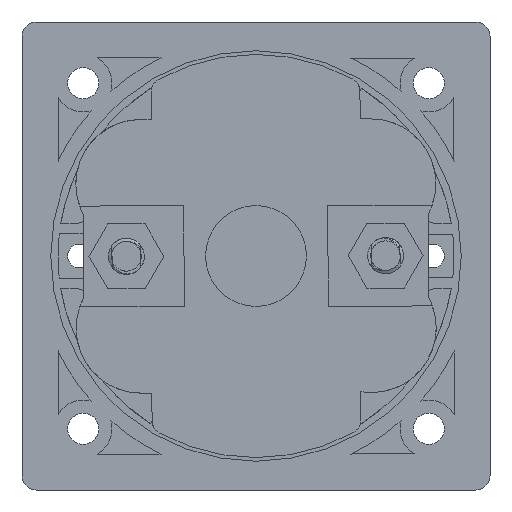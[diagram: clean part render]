
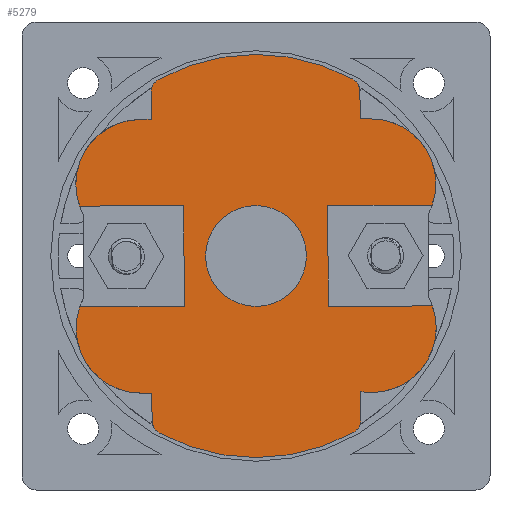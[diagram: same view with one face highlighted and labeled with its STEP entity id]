
A CAD part, front view. The second image highlights one B-rep face of the part: STEP entity #5279.
In plain terms, the highlighted planar face has unit normal (0, -1, 0).
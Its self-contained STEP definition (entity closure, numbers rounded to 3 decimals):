
#846=LINE('',#65444,#2837);
#851=LINE('',#65455,#2842);
#853=LINE('',#65459,#2844);
#857=LINE('',#65471,#2848);
#862=LINE('',#65482,#2853);
#864=LINE('',#65486,#2855);
#869=LINE('',#65521,#2860);
#901=LINE('',#65589,#2892);
#935=LINE('',#65673,#2926);
#937=LINE('',#65687,#2928);
#943=LINE('',#65706,#2934);
#974=LINE('',#65768,#2965);
#1008=LINE('',#65852,#2999);
#1011=LINE('',#65858,#3002);
#2837=VECTOR('',#30429,1.);
#2842=VECTOR('',#30436,1.);
#2844=VECTOR('',#30440,1.);
#2848=VECTOR('',#30452,1.);
#2853=VECTOR('',#30459,1.);
#2855=VECTOR('',#30463,1.);
#2860=VECTOR('',#30476,1.);
#2892=VECTOR('',#30516,1.);
#2926=VECTOR('',#30574,1.);
#2928=VECTOR('',#30578,1.);
#2934=VECTOR('',#30598,1.);
#2965=VECTOR('',#30631,1.);
#2999=VECTOR('',#30689,1.);
#3002=VECTOR('',#30694,1.);
#4707=FACE_BOUND('',#8998,.T.);
#4708=FACE_BOUND('',#8999,.T.);
#5279=ADVANCED_FACE('',(#4707,#4708),#6683,.F.);
#6683=PLANE('',#27790);
#8998=EDGE_LOOP('',(#12591,#12592,#12593,#12594,#12595,#12596,#12597,#12598,
#12599,#12600,#12601,#12602,#12603,#12604,#12605,#12606,#12607,#12608,#12609,
#12610,#12611,#12612,#12613,#12614,#12615));
#8999=EDGE_LOOP('',(#12616));
#10611=CIRCLE('',#27731,7.);
#10617=CIRCLE('',#27747,8.96);
#10620=CIRCLE('',#27752,2.);
#10622=CIRCLE('',#27755,28.);
#10625=CIRCLE('',#27759,2.);
#10626=CIRCLE('',#27763,9.);
#10628=CIRCLE('',#27766,9.);
#10632=CIRCLE('',#27773,2.);
#10634=CIRCLE('',#27776,28.);
#10637=CIRCLE('',#27780,2.);
#10638=CIRCLE('',#27784,9.);
#10640=CIRCLE('',#27787,9.);
#12591=ORIENTED_EDGE('',*,*,#23007,.F.);
#12592=ORIENTED_EDGE('',*,*,#23112,.T.);
#12593=ORIENTED_EDGE('',*,*,#23111,.T.);
#12594=ORIENTED_EDGE('',*,*,#23107,.T.);
#12595=ORIENTED_EDGE('',*,*,#23076,.T.);
#12596=ORIENTED_EDGE('',*,*,#23072,.T.);
#12597=ORIENTED_EDGE('',*,*,#23069,.T.);
#12598=ORIENTED_EDGE('',*,*,#23065,.T.);
#12599=ORIENTED_EDGE('',*,*,#23034,.T.);
#12600=ORIENTED_EDGE('',*,*,#23031,.T.);
#12601=ORIENTED_EDGE('',*,*,#23201,.T.);
#12602=ORIENTED_EDGE('',*,*,#23018,.F.);
#12603=ORIENTED_EDGE('',*,*,#23013,.F.);
#12604=ORIENTED_EDGE('',*,*,#23020,.F.);
#12605=ORIENTED_EDGE('',*,*,#23198,.T.);
#12606=ORIENTED_EDGE('',*,*,#23197,.T.);
#12607=ORIENTED_EDGE('',*,*,#23194,.T.);
#12608=ORIENTED_EDGE('',*,*,#23163,.T.);
#12609=ORIENTED_EDGE('',*,*,#23159,.T.);
#12610=ORIENTED_EDGE('',*,*,#23156,.T.);
#12611=ORIENTED_EDGE('',*,*,#23152,.T.);
#12612=ORIENTED_EDGE('',*,*,#23121,.T.);
#12613=ORIENTED_EDGE('',*,*,#23115,.T.);
#12614=ORIENTED_EDGE('',*,*,#23005,.F.);
#12615=ORIENTED_EDGE('',*,*,#23000,.F.);
#12616=ORIENTED_EDGE('',*,*,#22999,.F.);
#20133=VERTEX_POINT('',#65442);
#20134=VERTEX_POINT('',#65445);
#20135=VERTEX_POINT('',#65446);
#20139=VERTEX_POINT('',#65456);
#20140=VERTEX_POINT('',#65460);
#20144=VERTEX_POINT('',#65472);
#20145=VERTEX_POINT('',#65473);
#20149=VERTEX_POINT('',#65483);
#20150=VERTEX_POINT('',#65487);
#20154=VERTEX_POINT('',#65502);
#20159=VERTEX_POINT('',#65520);
#20160=VERTEX_POINT('',#65524);
#20162=VERTEX_POINT('',#65530);
#20192=VERTEX_POINT('',#65592);
#20195=VERTEX_POINT('',#65600);
#20197=VERTEX_POINT('',#65606);
#20200=VERTEX_POINT('',#65614);
#20230=VERTEX_POINT('',#65679);
#20234=VERTEX_POINT('',#65695);
#20237=VERTEX_POINT('',#65703);
#20239=VERTEX_POINT('',#65709);
#20269=VERTEX_POINT('',#65771);
#20272=VERTEX_POINT('',#65779);
#20274=VERTEX_POINT('',#65785);
#20277=VERTEX_POINT('',#65793);
#20307=VERTEX_POINT('',#65855);
#22999=EDGE_CURVE('',#20133,#20133,#10611,.T.);
#23000=EDGE_CURVE('',#20134,#20135,#846,.T.);
#23005=EDGE_CURVE('',#20135,#20139,#851,.T.);
#23007=EDGE_CURVE('',#20140,#20134,#853,.T.);
#23013=EDGE_CURVE('',#20144,#20145,#857,.T.);
#23018=EDGE_CURVE('',#20145,#20149,#862,.T.);
#23020=EDGE_CURVE('',#20150,#20144,#864,.T.);
#23031=EDGE_CURVE('',#20154,#20159,#869,.T.);
#23034=EDGE_CURVE('',#20160,#20154,#10617,.T.);
#23065=EDGE_CURVE('',#20162,#20160,#901,.T.);
#23069=EDGE_CURVE('',#20192,#20162,#10620,.T.);
#23072=EDGE_CURVE('',#20195,#20192,#10622,.T.);
#23076=EDGE_CURVE('',#20197,#20195,#10625,.T.);
#23107=EDGE_CURVE('',#20200,#20197,#935,.T.);
#23111=EDGE_CURVE('',#20230,#20200,#937,.T.);
#23112=EDGE_CURVE('',#20140,#20230,#10626,.T.);
#23115=EDGE_CURVE('',#20234,#20139,#10628,.T.);
#23121=EDGE_CURVE('',#20237,#20234,#943,.T.);
#23152=EDGE_CURVE('',#20239,#20237,#974,.T.);
#23156=EDGE_CURVE('',#20269,#20239,#10632,.T.);
#23159=EDGE_CURVE('',#20272,#20269,#10634,.T.);
#23163=EDGE_CURVE('',#20274,#20272,#10637,.T.);
#23194=EDGE_CURVE('',#20277,#20274,#1008,.T.);
#23197=EDGE_CURVE('',#20307,#20277,#1011,.T.);
#23198=EDGE_CURVE('',#20150,#20307,#10638,.T.);
#23201=EDGE_CURVE('',#20159,#20149,#10640,.T.);
#27731=AXIS2_PLACEMENT_3D('',#65441,#30425,#30426);
#27747=AXIS2_PLACEMENT_3D('',#65527,#30482,#30483);
#27752=AXIS2_PLACEMENT_3D('',#65597,#30524,#30525);
#27755=AXIS2_PLACEMENT_3D('',#65603,#30531,#30532);
#27759=AXIS2_PLACEMENT_3D('',#65611,#30540,#30541);
#27763=AXIS2_PLACEMENT_3D('',#65689,#30581,#30582);
#27766=AXIS2_PLACEMENT_3D('',#65694,#30588,#30589);
#27773=AXIS2_PLACEMENT_3D('',#65776,#30639,#30640);
#27776=AXIS2_PLACEMENT_3D('',#65782,#30646,#30647);
#27780=AXIS2_PLACEMENT_3D('',#65790,#30655,#30656);
#27784=AXIS2_PLACEMENT_3D('',#65860,#30697,#30698);
#27787=AXIS2_PLACEMENT_3D('',#65865,#30704,#30705);
#27790=AXIS2_PLACEMENT_3D('',#65870,#30711,#30712);
#30425=DIRECTION('',(0.,-1.,0.));
#30426=DIRECTION('',(-1.,0.,-0.003));
#30429=DIRECTION('',(-0.003,0.,1.));
#30436=DIRECTION('',(-1.,0.,-0.003));
#30440=DIRECTION('',(1.,0.,0.003));
#30452=DIRECTION('',(0.003,0.,-1.));
#30459=DIRECTION('',(1.,0.,0.003));
#30463=DIRECTION('',(-1.,0.,-0.003));
#30476=DIRECTION('',(1.,0.,0.003));
#30482=DIRECTION('',(0.,-1.,0.));
#30483=DIRECTION('',(0.,0.,-1.));
#30516=DIRECTION('',(-0.003,0.,1.));
#30524=DIRECTION('',(0.,-1.,0.));
#30525=DIRECTION('',(1.,0.,0.003));
#30531=DIRECTION('',(0.,-1.,0.));
#30532=DIRECTION('',(1.,0.,0.003));
#30540=DIRECTION('',(0.,-1.,0.));
#30541=DIRECTION('',(1.,0.,0.003));
#30574=DIRECTION('',(0.003,0.,-1.));
#30578=DIRECTION('',(1.,0.,0.003));
#30581=DIRECTION('',(0.,-1.,0.));
#30582=DIRECTION('',(-0.89,0.,0.456));
#30588=DIRECTION('',(0.,-1.,0.));
#30589=DIRECTION('',(-1.,0.,-0.003));
#30598=DIRECTION('',(-1.,0.,-0.003));
#30631=DIRECTION('',(0.003,0.,-1.));
#30639=DIRECTION('',(0.,-1.,0.));
#30640=DIRECTION('',(1.,0.,0.003));
#30646=DIRECTION('',(0.,-1.,0.));
#30647=DIRECTION('',(1.,0.,0.003));
#30655=DIRECTION('',(0.,-1.,0.));
#30656=DIRECTION('',(1.,0.,0.003));
#30689=DIRECTION('',(-0.003,0.,1.));
#30694=DIRECTION('',(-1.,0.,-0.003));
#30697=DIRECTION('',(0.,-1.,0.));
#30698=DIRECTION('',(1.,0.,0.003));
#30704=DIRECTION('',(0.,-1.,0.));
#30705=DIRECTION('',(0.,0.,-1.));
#30711=DIRECTION('',(0.,1.,0.));
#30712=DIRECTION('',(0.,0.,1.));
#65441=CARTESIAN_POINT('',(0.,-121.6,0.));
#65442=CARTESIAN_POINT('',(-7.,-121.6,-0.018));
#65444=CARTESIAN_POINT('',(-9.982,-121.6,-7.026));
#65445=CARTESIAN_POINT('',(-9.982,-121.6,-7.026));
#65446=CARTESIAN_POINT('',(-10.018,-121.6,6.974));
#65455=CARTESIAN_POINT('',(-10.018,-121.6,6.974));
#65456=CARTESIAN_POINT('',(-24.503,-121.6,6.937));
#65459=CARTESIAN_POINT('',(-34.164,-121.6,-7.088));
#65460=CARTESIAN_POINT('',(-24.468,-121.6,-7.063));
#65471=CARTESIAN_POINT('',(9.982,-121.6,7.026));
#65472=CARTESIAN_POINT('',(9.982,-121.6,7.026));
#65473=CARTESIAN_POINT('',(10.018,-121.6,-6.974));
#65482=CARTESIAN_POINT('',(10.018,-121.6,-6.974));
#65483=CARTESIAN_POINT('',(24.503,-121.6,-6.937));
#65486=CARTESIAN_POINT('',(34.164,-121.6,7.088));
#65487=CARTESIAN_POINT('',(24.467,-121.6,7.063));
#65502=CARTESIAN_POINT('',(15.978,-121.6,-18.959));
#65520=CARTESIAN_POINT('',(16.119,-121.6,-18.958));
#65521=CARTESIAN_POINT('',(23.752,-121.6,-18.938));
#65524=CARTESIAN_POINT('',(14.548,-121.6,-18.837));
#65527=CARTESIAN_POINT('',(16.02,-121.6,-9.999));
#65530=CARTESIAN_POINT('',(14.558,-121.6,-22.761));
#65589=CARTESIAN_POINT('',(14.558,-121.6,-22.761));
#65592=CARTESIAN_POINT('',(13.525,-121.6,-24.517));
#65597=CARTESIAN_POINT('',(12.558,-121.6,-22.766));
#65600=CARTESIAN_POINT('',(-13.398,-121.6,-24.586));
#65603=CARTESIAN_POINT('',(0.,-121.6,0.));
#65606=CARTESIAN_POINT('',(-14.441,-121.6,-22.835));
#65611=CARTESIAN_POINT('',(-12.441,-121.6,-22.83));
#65614=CARTESIAN_POINT('',(-14.451,-121.6,-19.037));
#65673=CARTESIAN_POINT('',(-14.451,-121.6,-19.037));
#65679=CARTESIAN_POINT('',(-15.951,-121.6,-19.041));
#65687=CARTESIAN_POINT('',(23.753,-121.6,-18.934));
#65689=CARTESIAN_POINT('',(-15.974,-121.6,-10.041));
#65694=CARTESIAN_POINT('',(-16.026,-121.6,9.959));
#65695=CARTESIAN_POINT('',(-16.049,-121.6,18.959));
#65703=CARTESIAN_POINT('',(-14.549,-121.6,18.963));
#65706=CARTESIAN_POINT('',(-14.549,-121.6,18.963));
#65709=CARTESIAN_POINT('',(-14.558,-121.6,22.761));
#65768=CARTESIAN_POINT('',(-14.558,-121.6,22.761));
#65771=CARTESIAN_POINT('',(-13.525,-121.6,24.517));
#65776=CARTESIAN_POINT('',(-12.558,-121.6,22.766));
#65779=CARTESIAN_POINT('',(13.398,-121.6,24.586));
#65782=CARTESIAN_POINT('',(0.,-121.6,0.));
#65785=CARTESIAN_POINT('',(14.441,-121.6,22.835));
#65790=CARTESIAN_POINT('',(12.441,-121.6,22.83));
#65793=CARTESIAN_POINT('',(14.451,-121.6,19.037));
#65852=CARTESIAN_POINT('',(14.451,-121.6,19.037));
#65855=CARTESIAN_POINT('',(15.951,-121.6,19.041));
#65858=CARTESIAN_POINT('',(15.951,-121.6,19.041));
#65860=CARTESIAN_POINT('',(15.974,-121.6,10.041));
#65865=CARTESIAN_POINT('',(16.026,-121.6,-9.959));
#65870=CARTESIAN_POINT('',(23.741,-121.6,-14.593));
